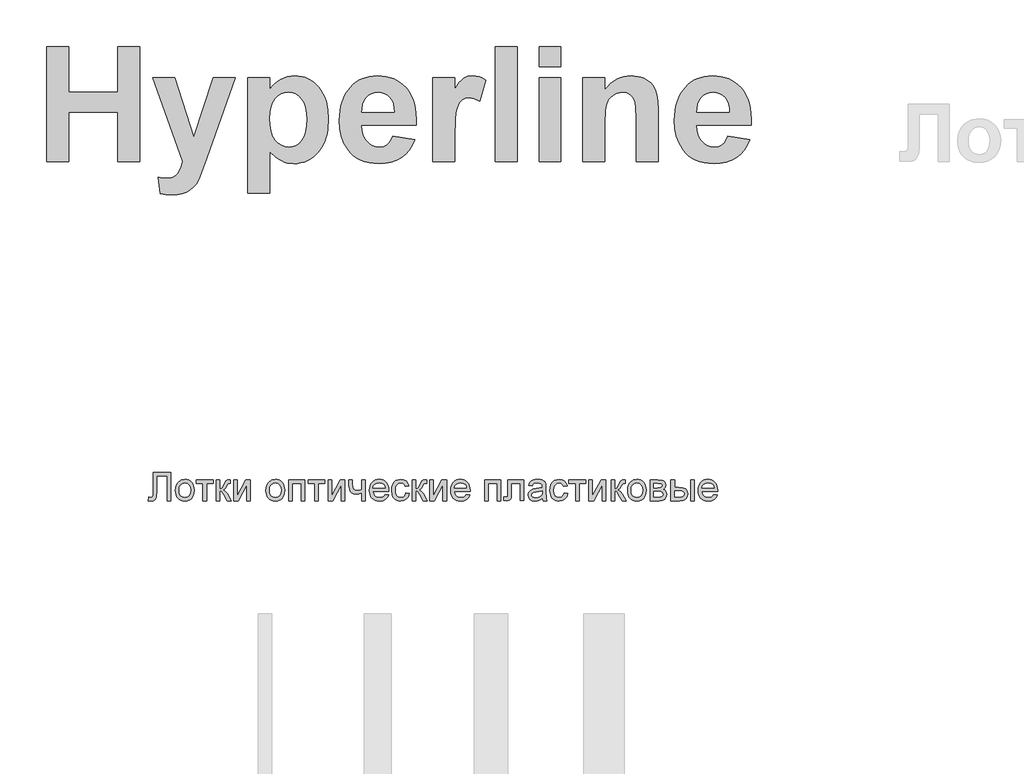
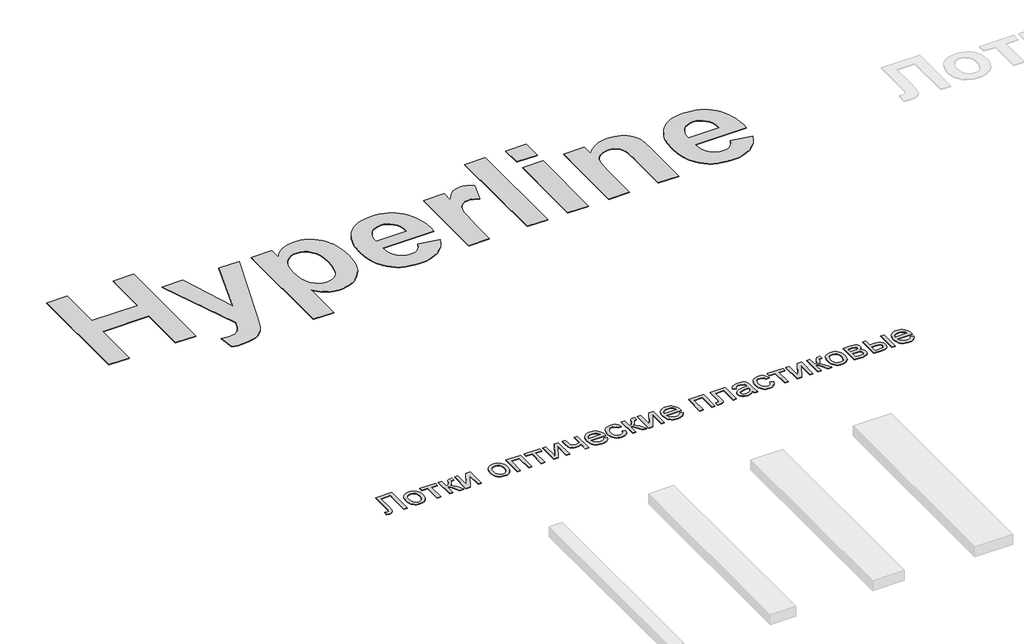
# One storey, part 8 of 11: 2 proxies.
"""IFC4 building model written with IfcOpenShell, lengths in millimetres."""

from ifc_helpers import new_model, si_unit, origin, origin_with_axes, place, context, project, spatial, polyline, outline, extrude, element, save

model = new_model("IFC4")

# Units and contexts
model_context = context("Model", 3, world=origin())
ifc_project = project(units=[si_unit("LENGTHUNIT", "METRE", prefix="MILLI")], contexts=[model_context])

# Site, building, storey
site = spatial("IfcSite", under=ifc_project)
building = spatial("IfcBuilding", under=site)
storey = spatial("IfcBuildingStorey", under=building, Name="Этаж 01", Elevation=0.0)

# Proxies
placement = place(None, origin())
element("IfcBuildingElementProxy", 1, Name="АБН_Логотип", ObjectType="АБН_Логотип", at=placement, inside=storey, context=model_context, shape_type="SweptSolid", body=[
    extrude(outline(polyline([(-20409.4017065, 14781.5295573), (-20409.4017065, 15801.7889572), (-20215.0665827, 15801.7889572), (-20215.0665827, 15396.924116), (-19777.8125541, 15396.924116), (-19777.8125541, 15801.7889572), (-19583.4774303, 15801.7889572), (-19583.4774303, 14781.5295573), (-19777.8125541, 14781.5295573), (-19777.8125541, 15218.7835858), (-20215.0665827, 15218.7835858), (-20215.0665827, 14781.5295573), (-20409.4017065, 14781.5295573)])), origin_with_axes(), (0.0, 0.0, 1.0), 5.0),
    extrude(outline(polyline([(-19470.1152747, 15526.4808652), (-19275.7801509, 15526.4808652), (-19105.7369176, 14999.1444094), (-18935.6936843, 15526.4808652), (-18741.3585605, 15526.4808652), (-18993.3869242, 14812.6535419), (-19040.1994214, 14680.0603064), (-19063.8903407, 14625.5933333), (-19086.3793174, 14585.6761903), (-19109.9437164, 14556.1337089), (-19136.8609023, 14532.7907204), (-19168.7123785, 14514.793213), (-19207.0796482, 14501.287175), (-19251.3933703, 14492.8419474), (-19301.0842035, 14490.0268716), (-19353.7166329, 14492.8103174), (-19405.3369001, 14501.1606547), (-19421.5314938, 14645.1407139), (-19380.8552293, 14638.1188393), (-19344.3541334, 14635.7782144), (-19314.7721145, 14638.3481573), (-19289.286189, 14646.0579858), (-19267.8963571, 14658.9077), (-19250.6026186, 14676.8972999), (-19223.6854327, 14723.6149069), (-19203.9166416, 14781.5295573), (-19470.1152747, 15526.4808652)])), origin_with_axes(), (0.0, 0.0, 1.0), 5.0),
    extrude(outline(polyline([(-18627.9964049, 15526.4808652), (-18433.6612811, 15526.4808652), (-18433.6612811, 15419.1916822), (-18415.0786175, 15445.4604518), (-18393.4910977, 15469.103926), (-18368.8987216, 15490.1221046), (-18341.3014892, 15508.5149878), (-18311.3952621, 15523.4601939), (-18279.8759016, 15534.1353411), (-18246.7434078, 15540.5404294), (-18211.9977806, 15542.6754588), (-18181.6467556, 15541.0880249), (-18152.4620893, 15536.3257231), (-18124.4437818, 15528.3885535), (-18097.5918328, 15517.2765161), (-18071.9062426, 15502.9896107), (-18047.387011, 15485.5278376), (-18001.8476239, 15441.0796877), (-17981.5944974, 15414.437288), (-17964.0417878, 15385.3079743), (-17949.1894951, 15353.6917468), (-17937.0376192, 15319.5886053), (-17920.8351181, 15243.9215806), (-17915.4342843, 15158.3069002), (-17921.0090834, 15070.2646122), (-17927.9775823, 15030.1458276), (-17937.7334807, 14992.6286159), (-17950.2767786, 14957.7129771), (-17965.6074761, 14925.3989112), (-17983.7255731, 14895.6864182), (-18004.6310697, 14868.5754981), (-18051.5938098, 14823.4077643), (-18076.8484404, 14805.6632974), (-18103.2852447, 14791.1450973), (-18130.9042227, 14779.8531638), (-18159.7053744, 14771.787497), (-18189.6886998, 14766.948097), (-18220.854199, 14765.3349636), (-18278.4841787, 14771.3446761), (-18305.1641391, 14778.8568167), (-18330.4207466, 14789.3738136), (-18355.2819783, 14803.544083), (-18380.7758113, 14822.0160414), (-18433.6612811, 14871.865025), (-18433.6612811, 14506.2214652), (-18627.9964049, 14506.2214652), (-18627.9964049, 15526.4808652)]), holes=[polyline([(-18433.6612811, 15166.910278), (-18430.6168873, 15105.769361), (-18421.4837058, 15053.1685617), (-18406.2617367, 15009.1078802), (-18384.9509799, 14973.5873163), (-18359.259459, 14946.2431245), (-18330.8951976, 14926.7115589), (-18299.8581956, 14914.9926196), (-18266.1484531, 14911.0863065), (-18234.0202138, 14914.6684114), (-18204.6912354, 14925.4147262), (-18178.1615177, 14943.325251), (-18154.4310609, 14968.3999856), (-18134.8915878, 15001.6510922), (-18120.9348213, 15044.0907328), (-18112.5607614, 15095.7189076), (-18109.7694081, 15156.5356165), (-18112.6398366, 15213.596255), (-18121.251122, 15262.8126373), (-18135.6032643, 15304.1847633), (-18155.6962636, 15337.7126329), (-18180.0435067, 15363.6176568), (-18207.1583805, 15382.1212452), (-18237.0408851, 15393.2233983), (-18269.6910204, 15396.924116), (-18303.4956532, 15393.2945659), (-18334.3112447, 15382.4059158), (-18362.137795, 15364.2581656), (-18386.9753041, 15338.8513153), (-18407.4004191, 15306.3277002), (-18421.9897869, 15266.8296557), (-18430.7434076, 15220.3571816), (-18433.6612811, 15166.910278)])]), origin_with_axes(), (0.0, 0.0, 1.0), 5.0),
    extrude(outline(polyline([(-17348.6235066, 15008.2538684), (-17154.2883828, 14975.8646811), (-17175.2907464, 14927.446958), (-17201.6069611, 14885.1812826), (-17233.2370268, 14849.0676551), (-17270.1809436, 14819.1060754), (-17312.264746, 14795.581214), (-17359.3144688, 14778.7777416), (-17411.3301119, 14768.6956581), (-17468.3116753, 14765.3349636), (-17513.8471086, 14767.3157965), (-17556.3223332, 14773.2582951), (-17595.7373488, 14783.1624594), (-17632.0921556, 14797.0282895), (-17665.3867535, 14814.8557853), (-17695.6211426, 14836.6449468), (-17722.7953228, 14862.3957741), (-17746.9092942, 14892.108267), (-17778.128169, 14946.1798644), (-17800.4273654, 15006.9254056), (-17813.8068832, 15074.3448907), (-17818.2667224, 15148.4383197), (-17812.3519001, 15235.8005612), (-17804.9583723, 15275.7335192), (-17794.6074333, 15313.1677019), (-17781.2990831, 15348.1031095), (-17765.0333218, 15380.5397419), (-17745.8101494, 15410.4775991), (-17723.6295658, 15437.9166812), (-17699.1874325, 15462.4695197), (-17673.179611, 15483.7486464), (-17645.6061012, 15501.7540613), (-17616.4669031, 15516.4857644), (-17585.7620168, 15527.9437557), (-17553.4914423, 15536.1280352), (-17519.6551795, 15541.0386029), (-17484.2532284, 15542.6754588), (-17444.7116925, 15540.9951116), (-17407.3130935, 15535.9540699), (-17372.0574315, 15527.5523337), (-17338.9447065, 15515.789903), (-17307.9749184, 15500.6667778), (-17279.1480672, 15482.1829581), (-17252.464153, 15460.338444), (-17227.9231758, 15435.1332354), (-17205.9837714, 15406.456627), (-17187.104576, 15374.1979138), (-17171.2855894, 15338.3570955), (-17158.5268116, 15298.9341724), (-17148.8282427, 15255.9291443), (-17142.1898826, 15209.3420112), (-17138.6117315, 15159.1727732), (-17138.0937891, 15105.4214303), (-17623.9315986, 15105.4214303), (-17620.3099561, 15061.9300899), (-17611.4693527, 15023.5628202), (-17597.4097885, 14990.3196211), (-17578.1312635, 14962.2004927), (-17554.8989802, 14939.8380362), (-17528.9781413, 14923.864853), (-17500.3687469, 14914.2809431), (-17469.0707969, 14911.0863065), (-17428.2680121, 14916.8429784), (-17410.4761001, 14924.0388184), (-17394.4238418, 14934.1129943), (-17380.1744971, 14947.3818069), (-17367.7913264, 14964.1615568), (-17348.6235066, 15008.2538684)]), holes=[polyline([(-17332.4289129, 15218.7835858), (-17335.8924051, 15259.8156886), (-17344.2585575, 15295.6130155), (-17357.5273701, 15326.1755665), (-17375.6988428, 15351.5033416), (-17397.428698, 15371.3749304), (-17421.3726577, 15385.5689224), (-17447.5307221, 15394.0853176), (-17475.9028911, 15396.924116), (-17506.0463437, 15393.9350748), (-17533.4696107, 15384.9679511), (-17558.172692, 15370.0227451), (-17580.1555877, 15349.0994566), (-17598.0582049, 15322.9255772), (-17610.7734913, 15292.481639), (-17618.3014469, 15257.7676418), (-17620.6420718, 15218.7835858), (-17332.4289129, 15218.7835858)])]), origin_with_axes(), (0.0, 0.0, 1.0), 5.0),
    extrude(outline(polyline([(-16798.0073225, 14781.5295573), (-16992.3424463, 14781.5295573), (-16992.3424463, 15526.4808652), (-16798.0073225, 15526.4808652), (-16798.0073225, 15422.7342496), (-16756.9514972, 15483.7486464), (-16738.084163, 15504.7905476), (-16720.3238811, 15519.5222507), (-16683.5064846, 15536.8871568), (-16641.8813181, 15542.6754588), (-16611.2792295, 15540.1134235), (-16581.214852, 15532.4273175), (-16551.6881857, 15519.6171409), (-16522.6992304, 15501.6828937), (-16579.3803082, 15316.7102693), (-16626.1928055, 15340.4328186), (-16648.2705913, 15346.3634559), (-16669.4627354, 15348.340335), (-16706.817843, 15342.8050735), (-16723.1468644, 15335.8859967), (-16737.9101976, 15326.199289), (-16751.1473801, 15312.9067539), (-16762.8979495, 15295.1701945), (-16781.9392491, 15246.3650031), (-16788.9690312, 15209.6108668), (-16793.9903041, 15157.0416975), (-16798.0073225, 15004.4582605), (-16798.0073225, 14781.5295573)])), origin_with_axes(), (0.0, 0.0, 1.0), 5.0),
    extrude(outline(polyline([(-16441.7262622, 14781.5295573), (-16441.7262622, 15801.7889572), (-16247.3911384, 15801.7889572), (-16247.3911384, 14781.5295573), (-16441.7262622, 14781.5295573)])), origin_with_axes(), (0.0, 0.0, 1.0), 5.0),
    extrude(outline(polyline([(-16053.0560146, 15623.6484271), (-16053.0560146, 15801.7889572), (-15858.7208908, 15801.7889572), (-15858.7208908, 15623.6484271), (-16053.0560146, 15623.6484271)])), origin_with_axes(), (0.0, 0.0, 1.0), 5.0),
    extrude(outline(polyline([(-16053.0560146, 14781.5295573), (-16053.0560146, 15526.4808652), (-15858.7208908, 15526.4808652), (-15858.7208908, 14781.5295573), (-16053.0560146, 14781.5295573)])), origin_with_axes(), (0.0, 0.0, 1.0), 5.0),
    extrude(outline(polyline([(-15000.4074273, 14781.5295573), (-15194.7425511, 14781.5295573), (-15194.7425511, 15164.3798728), (-15197.7790374, 15264.583921), (-15201.5746453, 15298.5546116), (-15206.8884964, 15321.7710798), (-15222.8933096, 15353.4644057), (-15246.6158589, 15377.186955), (-15276.9174619, 15391.9898257), (-15312.6594361, 15396.924116), (-15336.8168988, 15395.1607398), (-15359.6933439, 15389.8706113), (-15381.2887712, 15381.0537305), (-15401.6031809, 15368.7100974), (-15419.7272086, 15353.4485906), (-15434.7514898, 15335.8780891), (-15446.6760246, 15315.9985928), (-15455.5008129, 15293.8101017), (-15461.8663637, 15265.5249154), (-15466.4131856, 15227.3553336), (-15470.0506432, 15121.3629834), (-15470.0506432, 14781.5295573), (-15664.385767, 14781.5295573), (-15664.385767, 15526.4808652), (-15470.0506432, 15526.4808652), (-15470.0506432, 15419.1916822), (-15446.2134349, 15448.1331924), (-15420.881706, 15473.2158345), (-15394.0554565, 15494.4396086), (-15365.7346864, 15511.8045147), (-15335.9193957, 15525.3105527), (-15304.6095844, 15534.9577228), (-15271.8052525, 15540.7460248), (-15237.5064, 15542.6754588), (-15178.4214372, 15536.7922666), (-15150.87165, 15529.4382763), (-15124.6503255, 15519.1426899), (-15079.7356322, 15492.3836543), (-15061.9279051, 15476.5844365), (-15047.2199246, 15459.1720853), (-15024.9207283, 15420.2987345), (-15010.6555686, 15376.5543537), (-15002.9694626, 15320.3477269), (-15000.4074273, 15244.0876384), (-15000.4074273, 14781.5295573)])), origin_with_axes(), (0.0, 0.0, 1.0), 5.0),
    extrude(outline(polyline([(-14385.0128686, 15008.2538684), (-14190.6777448, 14975.8646811), (-14211.6801085, 14927.446958), (-14237.9963231, 14885.1812826), (-14269.6263889, 14849.0676551), (-14306.5703056, 14819.1060754), (-14348.6541081, 14795.581214), (-14395.7038308, 14778.7777416), (-14447.7194739, 14768.6956581), (-14504.7010373, 14765.3349636), (-14550.2364707, 14767.3157965), (-14592.7116952, 14773.2582951), (-14632.1267108, 14783.1624594), (-14668.4815176, 14797.0282895), (-14701.7761156, 14814.8557853), (-14732.0105046, 14836.6449468), (-14759.1846848, 14862.3957741), (-14783.2986562, 14892.108267), (-14814.5175311, 14946.1798644), (-14836.8167274, 15006.9254056), (-14850.1962452, 15074.3448907), (-14854.6560845, 15148.4383197), (-14848.7412622, 15235.8005612), (-14841.3477343, 15275.7335192), (-14830.9967953, 15313.1677019), (-14817.6884452, 15348.1031095), (-14801.4226839, 15380.5397419), (-14782.1995114, 15410.4775991), (-14760.0189278, 15437.9166812), (-14735.5767945, 15462.4695197), (-14709.568973, 15483.7486464), (-14681.9954632, 15501.7540613), (-14652.8562652, 15516.4857644), (-14622.1513789, 15527.9437557), (-14589.8808043, 15536.1280352), (-14556.0445415, 15541.0386029), (-14520.6425904, 15542.6754588), (-14481.1010545, 15540.9951116), (-14443.7024556, 15535.9540699), (-14408.4467936, 15527.5523337), (-14375.3340685, 15515.789903), (-14344.3642804, 15500.6667778), (-14315.5374293, 15482.1829581), (-14288.8535151, 15460.338444), (-14264.3125378, 15435.1332354), (-14242.3731335, 15406.456627), (-14223.493938, 15374.1979138), (-14207.6749514, 15338.3570955), (-14194.9161736, 15298.9341724), (-14185.2176047, 15255.9291443), (-14178.5792447, 15209.3420112), (-14175.0010935, 15159.1727732), (-14174.4831512, 15105.4214303), (-14660.3209607, 15105.4214303), (-14656.6993181, 15061.9300899), (-14647.8587148, 15023.5628202), (-14633.7991506, 14990.3196211), (-14614.5206255, 14962.2004927), (-14591.2883422, 14939.8380362), (-14565.3675034, 14923.864853), (-14536.7581089, 14914.2809431), (-14505.4601589, 14911.0863065), (-14464.6573741, 14916.8429784), (-14446.8654621, 14924.0388184), (-14430.8132038, 14934.1129943), (-14416.5638592, 14947.3818069), (-14404.1806884, 14964.1615568), (-14385.0128686, 15008.2538684)]), holes=[polyline([(-14368.818275, 15218.7835858), (-14372.2817672, 15259.8156886), (-14380.6479195, 15295.6130155), (-14393.9167321, 15326.1755665), (-14412.0882049, 15351.5033416), (-14433.81806, 15371.3749304), (-14457.7620198, 15385.5689224), (-14483.9200841, 15394.0853176), (-14512.2922531, 15396.924116), (-14542.4357057, 15393.9350748), (-14569.8589727, 15384.9679511), (-14594.562054, 15370.0227451), (-14616.5449497, 15349.0994566), (-14634.4475669, 15322.9255772), (-14647.1628533, 15292.481639), (-14654.690809, 15257.7676418), (-14657.0314338, 15218.7835858), (-14368.818275, 15218.7835858)])]), origin_with_axes(), (0.0, 0.0, 1.0), 5.0),
])
element("IfcBuildingElementProxy", 2, Name="АБН_Маленькая надпись", ObjectType="АБН_Маленькая надпись", at=placement, inside=storey, context=model_context, shape_type="SweptSolid", body=[
    extrude(outline(polyline([(-19464.9364862, 12032.6703326), (-19311.8975762, 12032.6703326), (-19311.8975762, 11781.5295573), (-19343.2901731, 11781.5295573), (-19343.2901731, 12001.2777357), (-19433.5438893, 12001.2777357), (-19433.5438893, 11873.1321741), (-19437.1920524, 11815.9571807), (-19442.8405739, 11799.8010297), (-19452.489812, 11787.6915807), (-19465.702907, 11780.1270072), (-19482.042999, 11777.6054827), (-19508.101307, 11781.5295573), (-19504.1772324, 11812.9221542), (-19489.1553842, 11808.9980796), (-19478.5404558, 11811.1057368), (-19470.9758823, 11817.4287086), (-19466.4463352, 11831.5691728), (-19464.9364862, 11857.1293073), (-19464.9364862, 12032.6703326)])), origin_with_axes(), (0.0, 0.0, 1.0), 5.0),
    extrude(outline(polyline([(-19268.7327555, 11873.7453107), (-19267.0351333, 11897.6308157), (-19261.942267, 11918.2130469), (-19253.4541563, 11935.4920044), (-19241.5708015, 11949.4676881), (-19216.4015416, 11964.7807761), (-19186.2658749, 11969.8851388), (-19168.9466803, 11968.3312206), (-19153.2867868, 11963.6694659), (-19139.2861945, 11955.8998748), (-19126.9449031, 11945.0224473), (-19116.8722175, 11931.4050653), (-19109.677442, 11915.4156109), (-19105.3605767, 11897.054084), (-19103.9216216, 11876.3204847), (-19106.4661387, 11844.605991), (-19114.0996901, 11820.4637351), (-19126.6000138, 11802.3838679), (-19143.7448476, 11788.8565403), (-19164.1086489, 11780.4182471), (-19186.2658749, 11777.6054827), (-19203.8379883, 11779.1536527), (-19219.6435017, 11783.7981629), (-19233.6824152, 11791.5390132), (-19245.9547286, 11802.3762037), (-19255.9201153, 11816.1257932), (-19263.0382487, 11832.6038409), (-19267.3091288, 11851.8103468), (-19268.7327555, 11873.7453107)]), holes=[polyline([(-19237.3401585, 11873.8066244), (-19233.7073238, 11845.3954045), (-19222.8088197, 11825.1542305), (-19206.4074141, 11813.0371173), (-19186.2658749, 11808.9980796), (-19166.2163061, 11813.0601099), (-19149.8455573, 11825.246201), (-19138.9470532, 11845.7556223), (-19135.3142185, 11874.7876431), (-19138.9700459, 11902.3711285), (-19149.9375278, 11922.3363909), (-19166.3312693, 11934.4535041), (-19186.2658749, 11938.4925419), (-19206.4074141, 11934.4688326), (-19222.8088197, 11922.3977046), (-19233.7073238, 11902.2025159), (-19237.3401585, 11873.8066244)])]), origin_with_axes(), (0.0, 0.0, 1.0), 5.0),
    extrude(outline(polyline([(-19084.3012485, 11965.9610642), (-18935.1864132, 11965.9610642), (-18935.1864132, 11934.5684673), (-18994.0475324, 11934.5684673), (-18994.0475324, 11781.5295573), (-19025.4401293, 11781.5295573), (-19025.4401293, 11934.5684673), (-19084.3012485, 11934.5684673), (-19084.3012485, 11965.9610642)])), origin_with_axes(), (0.0, 0.0, 1.0), 5.0),
    extrude(outline(polyline([(-18907.7178909, 11965.9610642), (-18876.3252939, 11965.9610642), (-18876.3252939, 11887.4795719), (-18863.556723, 11888.8897862), (-18855.2947065, 11893.1204291), (-18838.0655664, 11925.984554), (-18823.7488255, 11954.3421245), (-18811.1182103, 11963.5698312), (-18788.1562424, 11965.9610642), (-18782.1475032, 11965.9610642), (-18782.1475032, 11934.3845263), (-18790.6087891, 11934.5684673), (-18805.9372055, 11931.2575293), (-18816.7284107, 11910.5948239), (-18829.3896827, 11888.2459927), (-18847.139989, 11877.3015034), (-18827.3356749, 11865.0847554), (-18807.8992428, 11839.3483442), (-18774.2993539, 11781.5295573), (-18809.9839075, 11781.5295573), (-18842.909346, 11838.1220709), (-18859.4640358, 11862.0650574), (-18867.2048861, 11866.4106635), (-18876.3252939, 11867.8591988), (-18876.3252939, 11781.5295573), (-18907.7178909, 11781.5295573), (-18907.7178909, 11965.9610642)])), origin_with_axes(), (0.0, 0.0, 1.0), 5.0),
    extrude(outline(polyline([(-18754.6789809, 11965.9610642), (-18723.2863839, 11965.9610642), (-18723.2863839, 11825.3075147), (-18646.1537923, 11965.9610642), (-18605.5641455, 11965.9610642), (-18605.5641455, 11781.5295573), (-18636.9567424, 11781.5295573), (-18636.9567424, 11921.3247154), (-18713.5988247, 11781.5295573), (-18754.6789809, 11781.5295573), (-18754.6789809, 11965.9610642)])), origin_with_axes(), (0.0, 0.0, 1.0), 5.0),
    extrude(outline(polyline([(-18468.221534, 11873.7453107), (-18466.5239118, 11897.6308157), (-18461.4310455, 11918.2130469), (-18452.9429348, 11935.4920044), (-18441.05958, 11949.4676881), (-18415.8903201, 11964.7807761), (-18385.7546534, 11969.8851388), (-18368.4354588, 11968.3312206), (-18352.7755653, 11963.6694659), (-18338.7749729, 11955.8998748), (-18326.4336816, 11945.0224473), (-18316.360996, 11931.4050653), (-18309.1662205, 11915.4156109), (-18304.8493552, 11897.054084), (-18303.4104001, 11876.3204847), (-18305.9549172, 11844.605991), (-18313.5884686, 11820.4637351), (-18326.0887923, 11802.3838679), (-18343.2336261, 11788.8565403), (-18363.5974274, 11780.4182471), (-18385.7546534, 11777.6054827), (-18403.3267668, 11779.1536527), (-18419.1322802, 11783.7981629), (-18433.1711936, 11791.5390132), (-18445.4435071, 11802.3762037), (-18455.4088938, 11816.1257932), (-18462.5270272, 11832.6038409), (-18466.7979073, 11851.8103468), (-18468.221534, 11873.7453107)]), holes=[polyline([(-18436.828937, 11873.8066244), (-18433.1961023, 11845.3954045), (-18422.2975982, 11825.1542305), (-18405.8961926, 11813.0371173), (-18385.7546534, 11808.9980796), (-18365.7050846, 11813.0601099), (-18349.3343358, 11825.246201), (-18338.4358317, 11845.7556223), (-18334.802997, 11874.7876431), (-18338.4588244, 11902.3711285), (-18349.4263063, 11922.3363909), (-18365.8200478, 11934.4535041), (-18385.7546534, 11938.4925419), (-18405.8961926, 11934.4688326), (-18422.2975982, 11922.3977046), (-18433.1961023, 11902.2025159), (-18436.828937, 11873.8066244)])]), origin_with_axes(), (0.0, 0.0, 1.0), 5.0),
    extrude(outline(polyline([(-18268.0937286, 11965.9610642), (-18126.8270424, 11965.9610642), (-18126.8270424, 11781.5295573), (-18158.2196393, 11781.5295573), (-18158.2196393, 11934.5684673), (-18236.7011317, 11934.5684673), (-18236.7011317, 11781.5295573), (-18268.0937286, 11781.5295573), (-18268.0937286, 11965.9610642)])), origin_with_axes(), (0.0, 0.0, 1.0), 5.0),
    extrude(outline(polyline([(-18095.4344455, 11965.9610642), (-17946.3196101, 11965.9610642), (-17946.3196101, 11934.5684673), (-18005.1807294, 11934.5684673), (-18005.1807294, 11781.5295573), (-18036.5733263, 11781.5295573), (-18036.5733263, 11934.5684673), (-18095.4344455, 11934.5684673), (-18095.4344455, 11965.9610642)])), origin_with_axes(), (0.0, 0.0, 1.0), 5.0),
    extrude(outline(polyline([(-17918.8510878, 11965.9610642), (-17887.4584909, 11965.9610642), (-17887.4584909, 11825.3075147), (-17810.3258992, 11965.9610642), (-17769.7362524, 11965.9610642), (-17769.7362524, 11781.5295573), (-17801.1288494, 11781.5295573), (-17801.1288494, 11921.3247154), (-17877.7709317, 11781.5295573), (-17918.8510878, 11781.5295573), (-17918.8510878, 11965.9610642)])), origin_with_axes(), (0.0, 0.0, 1.0), 5.0),
    extrude(outline(polyline([(-17734.4195809, 11965.9610642), (-17703.026984, 11965.9610642), (-17703.026984, 11930.583079), (-17700.4824668, 11897.4123858), (-17696.1521892, 11887.7708118), (-17688.2503905, 11879.4474817), (-17677.336558, 11873.6993255), (-17663.9701788, 11871.7832734), (-17644.763673, 11874.159178), (-17620.6214171, 11881.2868916), (-17620.6214171, 11965.9610642), (-17589.2288201, 11965.9610642), (-17589.2288201, 11781.5295573), (-17620.6214171, 11781.5295573), (-17620.6214171, 11851.1818817), (-17647.415489, 11843.0884778), (-17672.3701511, 11840.3906765), (-17691.3543948, 11843.2034409), (-17707.9627341, 11851.6417342), (-17720.9075818, 11864.1573862), (-17728.901351, 11879.202227), (-17734.4195809, 11915.0707215), (-17734.4195809, 11965.9610642)])), origin_with_axes(), (0.0, 0.0, 1.0), 5.0),
    extrude(outline(polyline([(-17413.0133445, 11836.4666019), (-17382.2338842, 11832.5425273), (-17393.3239935, 11809.3506332), (-17411.0206503, 11792.0141941), (-17434.9253158, 11781.2076605), (-17464.6394511, 11777.6054827), (-17484.1180363, 11779.1594009), (-17501.4736359, 11783.8211555), (-17516.7062497, 11791.5907466), (-17529.8158779, 11802.4681742), (-17540.3579963, 11816.1507019), (-17547.8880809, 11832.3355937), (-17552.4061317, 11851.0228494), (-17553.9121486, 11872.2124691), (-17552.3908033, 11894.1206083), (-17547.8267673, 11913.430581), (-17540.2200406, 11930.142387), (-17529.5706233, 11944.2560265), (-17516.495484, 11955.4687631), (-17501.6115916, 11963.4778607), (-17484.9189461, 11968.2833193), (-17466.4175474, 11969.8851388), (-17448.5120409, 11968.2871514), (-17432.319485, 11963.4931891), (-17417.8398796, 11955.5032521), (-17405.0732247, 11944.3173401), (-17394.6518176, 11930.2343575), (-17387.2079553, 11913.5532083), (-17382.741638, 11894.2738925), (-17381.2528655, 11872.3964101), (-17381.4368065, 11863.9351242), (-17522.5195517, 11863.9351242), (-17517.085628, 11840.4366618), (-17504.4626771, 11823.1615364), (-17486.2448541, 11812.5389438), (-17464.0263144, 11808.9980796), (-17447.3183405, 11810.6382201), (-17433.2468542, 11815.5586418), (-17421.8118555, 11824.065913), (-17413.0133445, 11836.4666019)]), holes=[polyline([(-17522.5195517, 11895.3277211), (-17412.6454625, 11895.3277211), (-17416.8914338, 11911.9130677), (-17425.214764, 11923.7772621), (-17443.5168932, 11934.8137219), (-17466.5401748, 11938.4925419), (-17487.7010537, 11935.5571501), (-17505.1984411, 11926.7509749), (-17517.3615395, 11913.0243779), (-17522.5195517, 11895.3277211)])]), origin_with_axes(), (0.0, 0.0, 1.0), 5.0),
    extrude(outline(polyline([(-17232.1380302, 11848.2388257), (-17200.7454332, 11844.3147511), (-17209.497959, 11816.3940405), (-17225.9453499, 11795.2944753), (-17248.5394358, 11782.0277308), (-17275.7320466, 11777.6054827), (-17293.3386489, 11779.1479046), (-17309.1250019, 11783.7751703), (-17323.0911053, 11791.4872798), (-17335.2369593, 11802.2842332), (-17345.0682224, 11815.9629288), (-17352.0905532, 11832.3202652), (-17357.7084178, 11873.0708604), (-17355.3095207, 11901.0068994), (-17348.1128291, 11925.2181332), (-17336.0033801, 11944.7695284), (-17318.8662105, 11958.7260516), (-17298.3644535, 11967.095367), (-17276.1612422, 11969.8851388), (-17249.6354176, 11966.0530347), (-17228.4285534, 11954.5567223), (-17213.2151, 11936.0093384), (-17204.6695078, 11911.0240196), (-17236.0621048, 11907.099945), (-17241.7566115, 11920.7958851), (-17250.6241004, 11930.6137358), (-17262.1740622, 11936.5228404), (-17275.9159876, 11938.4925419), (-17296.2031468, 11934.6144525), (-17312.3056483, 11922.9801844), (-17322.8132778, 11902.9612725), (-17326.3158209, 11873.9292517), (-17322.8899198, 11844.5063563), (-17312.6122166, 11824.4184665), (-17296.800955, 11812.8531763), (-17276.7743789, 11808.9980796), (-17260.5185932, 11811.404641), (-17247.1905351, 11818.6243251), (-17237.4953117, 11830.841073), (-17232.1380302, 11848.2388257)])), origin_with_axes(), (0.0, 0.0, 1.0), 5.0),
    extrude(outline(polyline([(-17173.2769109, 11965.9610642), (-17141.884314, 11965.9610642), (-17141.884314, 11887.4795719), (-17129.1157431, 11888.8897862), (-17120.8537266, 11893.1204291), (-17103.6245865, 11925.984554), (-17089.3078455, 11954.3421245), (-17076.6772304, 11963.5698312), (-17053.7152625, 11965.9610642), (-17047.7065232, 11965.9610642), (-17047.7065232, 11934.3845263), (-17056.1678091, 11934.5684673), (-17071.4962256, 11931.2575293), (-17082.2874308, 11910.5948239), (-17094.9487028, 11888.2459927), (-17112.6990091, 11877.3015034), (-17092.894695, 11865.0847554), (-17073.4582629, 11839.3483442), (-17039.858374, 11781.5295573), (-17075.5429275, 11781.5295573), (-17108.4683661, 11838.1220709), (-17125.0230559, 11862.0650574), (-17132.7639062, 11866.4106635), (-17141.884314, 11867.8591988), (-17141.884314, 11781.5295573), (-17173.2769109, 11781.5295573), (-17173.2769109, 11965.9610642)])), origin_with_axes(), (0.0, 0.0, 1.0), 5.0),
    extrude(outline(polyline([(-17020.2380009, 11965.9610642), (-16988.845404, 11965.9610642), (-16988.845404, 11825.3075147), (-16911.7128124, 11965.9610642), (-16871.1231656, 11965.9610642), (-16871.1231656, 11781.5295573), (-16902.5157625, 11781.5295573), (-16902.5157625, 11921.3247154), (-16979.1578448, 11781.5295573), (-17020.2380009, 11781.5295573), (-17020.2380009, 11965.9610642)])), origin_with_axes(), (0.0, 0.0, 1.0), 5.0),
    extrude(outline(polyline([(-16694.9076899, 11836.4666019), (-16664.1282296, 11832.5425273), (-16675.2183389, 11809.3506332), (-16692.9149957, 11792.0141941), (-16716.8196612, 11781.2076605), (-16746.5337965, 11777.6054827), (-16766.0123817, 11779.1594009), (-16783.3679813, 11783.8211555), (-16798.6005952, 11791.5907466), (-16811.7102233, 11802.4681742), (-16822.2523418, 11816.1507019), (-16829.7824263, 11832.3355937), (-16834.3004771, 11851.0228494), (-16835.806494, 11872.2124691), (-16834.2851487, 11894.1206083), (-16829.7211127, 11913.430581), (-16822.114386, 11930.142387), (-16811.4649687, 11944.2560265), (-16798.3898294, 11955.4687631), (-16783.505937, 11963.4778607), (-16766.8132915, 11968.2833193), (-16748.3118928, 11969.8851388), (-16730.4063863, 11968.2871514), (-16714.2138304, 11963.4931891), (-16699.734225, 11955.5032521), (-16686.9675701, 11944.3173401), (-16676.546163, 11930.2343575), (-16669.1023007, 11913.5532083), (-16664.6359834, 11894.2738925), (-16663.1472109, 11872.3964101), (-16663.3311519, 11863.9351242), (-16804.4138971, 11863.9351242), (-16798.9799735, 11840.4366618), (-16786.3570225, 11823.1615364), (-16768.1391995, 11812.5389438), (-16745.9206599, 11808.9980796), (-16729.2126859, 11810.6382201), (-16715.1411996, 11815.5586418), (-16703.7062009, 11824.065913), (-16694.9076899, 11836.4666019)]), holes=[polyline([(-16804.4138971, 11895.3277211), (-16694.5398079, 11895.3277211), (-16698.7857792, 11911.9130677), (-16707.1091094, 11923.7772621), (-16725.4112386, 11934.8137219), (-16748.4345202, 11938.4925419), (-16769.5953991, 11935.5571501), (-16787.0927865, 11926.7509749), (-16799.255885, 11913.0243779), (-16804.4138971, 11895.3277211)])]), origin_with_axes(), (0.0, 0.0, 1.0), 5.0),
    extrude(outline(polyline([(-16533.6527486, 11965.9610642), (-16392.3860625, 11965.9610642), (-16392.3860625, 11781.5295573), (-16423.7786594, 11781.5295573), (-16423.7786594, 11934.5684673), (-16502.2601517, 11934.5684673), (-16502.2601517, 11781.5295573), (-16533.6527486, 11781.5295573), (-16533.6527486, 11965.9610642)])), origin_with_axes(), (0.0, 0.0, 1.0), 5.0),
    extrude(outline(polyline([(-16329.6008687, 11965.9610642), (-16188.3341825, 11965.9610642), (-16188.3341825, 11781.7134983), (-16219.7267794, 11781.7134983), (-16219.7267794, 11934.5684673), (-16298.2082717, 11934.5684673), (-16298.2082717, 11846.5833568), (-16300.3235932, 11805.99371), (-16304.2859889, 11796.8043243), (-16311.9425329, 11788.8565403), (-16323.5614726, 11783.361303), (-16339.4110552, 11781.5295573), (-16364.9175402, 11783.1237126), (-16364.9175402, 11812.9221542), (-16350.8767107, 11812.9221542), (-16336.6825971, 11814.8535347), (-16331.011083, 11820.9849013), (-16329.6008687, 11848.3614531), (-16329.6008687, 11965.9610642)])), origin_with_axes(), (0.0, 0.0, 1.0), 5.0),
    extrude(outline(polyline([(-16023.5230487, 11805.074005), (-16038.5219042, 11792.2134636), (-16053.9652838, 11783.7981629), (-16070.205741, 11779.1536527), (-16087.5958295, 11777.6054827), (-16113.8304143, 11781.3302879), (-16133.1825401, 11792.5047035), (-16145.1157123, 11809.4732605), (-16149.0934364, 11830.58049), (-16147.5912515, 11843.5943155), (-16143.0846971, 11855.4125246), (-16127.2964281, 11873.4387424), (-16105.3154789, 11883.7394383), (-16078.153525, 11888.4605905), (-16023.7069897, 11899.2517957), (-16023.5230487, 11906.2415536), (-16025.6843554, 11920.2517263), (-16032.1682756, 11929.4181193), (-16046.6689575, 11936.2239362), (-16066.8718104, 11938.4925419), (-16085.5724785, 11936.9826929), (-16098.6322894, 11932.4531458), (-16107.5380993, 11924.0761662), (-16113.7767648, 11911.0240196), (-16145.1693617, 11914.9480942), (-16139.7201097, 11932.1159206), (-16131.5883848, 11945.6049271), (-16120.0154303, 11955.9209514), (-16104.2424898, 11963.5698312), (-16084.9516777, 11968.3063119), (-16062.8251085, 11969.8851388), (-16041.6029159, 11968.4902529), (-16024.7799788, 11964.3055952), (-16012.0957142, 11958.0132803), (-16003.2895389, 11950.2954226), (-15993.6632934, 11928.9889237), (-15992.1304517, 11901.5204014), (-15992.1304517, 11862.4635962), (-15990.5362964, 11807.9250904), (-15984.2823025, 11781.5295573), (-16015.6748994, 11781.5295573), (-16023.5230487, 11805.074005)]), holes=[polyline([(-16023.5230487, 11867.8591988), (-16074.1681367, 11858.2329533), (-16101.1768065, 11853.143919), (-16113.4088828, 11844.8665741), (-16117.7008394, 11832.7877819), (-16115.3632559, 11823.4527763), (-16108.3505054, 11815.8038965), (-16096.815872, 11810.6995338), (-16080.9126399, 11808.9980796), (-16064.0513818, 11810.8758106), (-16049.152161, 11816.5090036), (-16037.0733688, 11824.8093412), (-16028.6733966, 11834.6885056), (-16024.9485914, 11844.8665741), (-16023.7069897, 11858.9687173), (-16023.5230487, 11867.8591988)])]), origin_with_axes(), (0.0, 0.0, 1.0), 5.0),
    extrude(outline(polyline([(-15831.2433925, 11848.2388257), (-15799.8507956, 11844.3147511), (-15808.6033214, 11816.3940405), (-15825.0507123, 11795.2944753), (-15847.6447981, 11782.0277308), (-15874.837409, 11777.6054827), (-15892.4440113, 11779.1479046), (-15908.2303642, 11783.7751703), (-15922.1964677, 11791.4872798), (-15934.3423217, 11802.2842332), (-15944.1735848, 11815.9629288), (-15951.1959156, 11832.3202652), (-15956.8137802, 11873.0708604), (-15954.414883, 11901.0068994), (-15947.2181915, 11925.2181332), (-15935.1087425, 11944.7695284), (-15917.9715729, 11958.7260516), (-15897.4698159, 11967.095367), (-15875.2666046, 11969.8851388), (-15848.7407799, 11966.0530347), (-15827.5339157, 11954.5567223), (-15812.3204624, 11936.0093384), (-15803.7748702, 11911.0240196), (-15835.1674671, 11907.099945), (-15840.8619739, 11920.7958851), (-15849.7294628, 11930.6137358), (-15861.2794246, 11936.5228404), (-15875.0213499, 11938.4925419), (-15895.3085091, 11934.6144525), (-15911.4110106, 11922.9801844), (-15921.9186401, 11902.9612725), (-15925.4211833, 11873.9292517), (-15921.9952822, 11844.5063563), (-15911.717579, 11824.4184665), (-15895.9063174, 11812.8531763), (-15875.8797413, 11808.9980796), (-15859.6239556, 11811.404641), (-15846.2958975, 11818.6243251), (-15836.6006741, 11830.841073), (-15831.2433925, 11848.2388257)])), origin_with_axes(), (0.0, 0.0, 1.0), 5.0),
    extrude(outline(polyline([(-15788.0785718, 11965.9610642), (-15638.9637364, 11965.9610642), (-15638.9637364, 11934.5684673), (-15697.8248556, 11934.5684673), (-15697.8248556, 11781.5295573), (-15729.2174525, 11781.5295573), (-15729.2174525, 11934.5684673), (-15788.0785718, 11934.5684673), (-15788.0785718, 11965.9610642)])), origin_with_axes(), (0.0, 0.0, 1.0), 5.0),
    extrude(outline(polyline([(-15611.4952141, 11965.9610642), (-15580.1026171, 11965.9610642), (-15580.1026171, 11825.3075147), (-15502.9700255, 11965.9610642), (-15462.3803787, 11965.9610642), (-15462.3803787, 11781.5295573), (-15493.7729756, 11781.5295573), (-15493.7729756, 11921.3247154), (-15570.4150579, 11781.5295573), (-15611.4952141, 11781.5295573), (-15611.4952141, 11965.9610642)])), origin_with_axes(), (0.0, 0.0, 1.0), 5.0),
    extrude(outline(polyline([(-15415.2914833, 11965.9610642), (-15383.8988864, 11965.9610642), (-15383.8988864, 11887.4795719), (-15371.1303155, 11888.8897862), (-15362.868299, 11893.1204291), (-15345.6391589, 11925.984554), (-15331.3224179, 11954.3421245), (-15318.6918027, 11963.5698312), (-15295.7298349, 11965.9610642), (-15289.7210956, 11965.9610642), (-15289.7210956, 11934.3845263), (-15298.1823815, 11934.5684673), (-15313.510798, 11931.2575293), (-15324.3020032, 11910.5948239), (-15336.9632752, 11888.2459927), (-15354.7135814, 11877.3015034), (-15334.9092674, 11865.0847554), (-15315.4728353, 11839.3483442), (-15281.8729464, 11781.5295573), (-15317.5574999, 11781.5295573), (-15350.4829385, 11838.1220709), (-15367.0376283, 11862.0650574), (-15374.7784786, 11866.4106635), (-15383.8988864, 11867.8591988), (-15383.8988864, 11781.5295573), (-15415.2914833, 11781.5295573), (-15415.2914833, 11965.9610642)])), origin_with_axes(), (0.0, 0.0, 1.0), 5.0),
    extrude(outline(polyline([(-15270.1007225, 11873.7453107), (-15268.4031004, 11897.6308157), (-15263.3102341, 11918.2130469), (-15254.8221234, 11935.4920044), (-15242.9387686, 11949.4676881), (-15217.7695087, 11964.7807761), (-15187.633842, 11969.8851388), (-15170.3146474, 11968.3312206), (-15154.6547539, 11963.6694659), (-15140.6541615, 11955.8998748), (-15128.3128702, 11945.0224473), (-15118.2401846, 11931.4050653), (-15111.0454091, 11915.4156109), (-15106.7285438, 11897.054084), (-15105.2895887, 11876.3204847), (-15107.8341058, 11844.605991), (-15115.4676572, 11820.4637351), (-15127.9679809, 11802.3838679), (-15145.1128147, 11788.8565403), (-15165.476616, 11780.4182471), (-15187.633842, 11777.6054827), (-15205.2059554, 11779.1536527), (-15221.0114688, 11783.7981629), (-15235.0503822, 11791.5390132), (-15247.3226957, 11802.3762037), (-15257.2880824, 11816.1257932), (-15264.4062158, 11832.6038409), (-15268.6770959, 11851.8103468), (-15270.1007225, 11873.7453107)]), holes=[polyline([(-15238.7081256, 11873.8066244), (-15235.0752909, 11845.3954045), (-15224.1767868, 11825.1542305), (-15207.7753812, 11813.0371173), (-15187.633842, 11808.9980796), (-15167.5842732, 11813.0601099), (-15151.2135244, 11825.246201), (-15140.3150203, 11845.7556223), (-15136.6821856, 11874.7876431), (-15140.338013, 11902.3711285), (-15151.3054949, 11922.3363909), (-15167.6992363, 11934.4535041), (-15187.633842, 11938.4925419), (-15207.7753812, 11934.4688326), (-15224.1767868, 11922.3977046), (-15235.0752909, 11902.2025159), (-15238.7081256, 11873.8066244)])]), origin_with_axes(), (0.0, 0.0, 1.0), 5.0),
    extrude(outline(polyline([(-15069.9729172, 11965.9610642), (-15000.8111021, 11965.9610642), (-14962.8885997, 11961.7610781), (-14951.3463021, 11955.8136525), (-14941.551444, 11946.3713479), (-14934.8605902, 11934.0702937), (-14932.6303056, 11919.5466191), (-14938.0259082, 11897.7496109), (-14954.2740297, 11882.2065966), (-14942.65509, 11875.6843554), (-14933.1821286, 11865.1920543), (-14926.8821495, 11851.5574279), (-14924.7821564, 11835.6082106), (-14930.1011169, 11811.6805525), (-14942.7470605, 11794.8346228), (-14962.7659724, 11784.8558236), (-14990.2038379, 11781.5295573), (-15069.9729172, 11781.5295573), (-15069.9729172, 11965.9610642)]), holes=[polyline([(-15038.5803202, 11895.3277211), (-15007.5556053, 11895.3277211), (-14981.9571498, 11896.9218764), (-14969.5104757, 11903.2984977), (-14964.0229026, 11914.8254669), (-14966.4294639, 11924.1911293), (-14973.6491481, 11930.215197), (-15006.5745867, 11934.5684673), (-15038.5803202, 11934.5684673), (-15038.5803202, 11895.3277211)]), polyline([(-15038.5803202, 11812.9221542), (-15000.0753381, 11812.9221542), (-14979.0907359, 11814.3400327), (-14965.9236262, 11818.5936683), (-14958.8572262, 11826.3268544), (-14956.1747533, 11838.1833845), (-14961.5396991, 11853.2972032), (-14975.5192149, 11862.0957142), (-15003.1410214, 11863.9351242), (-15038.5803202, 11863.9351242), (-15038.5803202, 11812.9221542)])]), origin_with_axes(), (0.0, 0.0, 1.0), 5.0),
    extrude(outline(polyline([(-14712.8821272, 11965.9610642), (-14681.4895303, 11965.9610642), (-14681.4895303, 11781.5295573), (-14712.8821272, 11781.5295573), (-14712.8821272, 11965.9610642)])), origin_with_axes(), (0.0, 0.0, 1.0), 5.0),
    extrude(outline(polyline([(-14885.5414103, 11965.9610642), (-14854.1488133, 11965.9610642), (-14854.1488133, 11899.2517957), (-14815.3372628, 11899.2517957), (-14781.7910234, 11895.3200569), (-14756.9359961, 11883.5248404), (-14741.5539302, 11864.8165081), (-14736.4265749, 11840.1454218), (-14740.7261957, 11817.6816275), (-14753.6250582, 11798.7280405), (-14775.9662252, 11785.8291781), (-14808.5927596, 11781.5295573), (-14885.5414103, 11781.5295573), (-14885.5414103, 11965.9610642)]), holes=[polyline([(-14854.1488133, 11812.9221542), (-14821.8978251, 11812.9221542), (-14796.8971778, 11814.569959), (-14780.265846, 11819.5133733), (-14770.9308403, 11827.9516665), (-14767.8191718, 11840.0841082), (-14770.1260985, 11850.3388188), (-14777.0468785, 11859.3979129), (-14791.8464646, 11865.7438773), (-14817.7898095, 11867.8591988), (-14854.1488133, 11867.8591988), (-14854.1488133, 11812.9221542)])]), origin_with_axes(), (0.0, 0.0, 1.0), 5.0),
    extrude(outline(polyline([(-14505.2740546, 11836.4666019), (-14474.4945943, 11832.5425273), (-14485.5847036, 11809.3506332), (-14503.2813604, 11792.0141941), (-14527.1860259, 11781.2076605), (-14556.9001612, 11777.6054827), (-14576.3787465, 11779.1594009), (-14593.734346, 11783.8211555), (-14608.9669599, 11791.5907466), (-14622.076588, 11802.4681742), (-14632.6187065, 11816.1507019), (-14640.1487911, 11832.3355937), (-14644.6668418, 11851.0228494), (-14646.1728587, 11872.2124691), (-14644.6515134, 11894.1206083), (-14640.0874774, 11913.430581), (-14632.4807507, 11930.142387), (-14621.8313334, 11944.2560265), (-14608.7561941, 11955.4687631), (-14593.8723017, 11963.4778607), (-14577.1796562, 11968.2833193), (-14558.6782575, 11969.8851388), (-14540.7727511, 11968.2871514), (-14524.5801951, 11963.4931891), (-14510.1005897, 11955.5032521), (-14497.3339348, 11944.3173401), (-14486.9125277, 11930.2343575), (-14479.4686655, 11913.5532083), (-14475.0023481, 11894.2738925), (-14473.5135757, 11872.3964101), (-14473.6975167, 11863.9351242), (-14614.7802618, 11863.9351242), (-14609.3463382, 11840.4366618), (-14596.7233872, 11823.1615364), (-14578.5055642, 11812.5389438), (-14556.2870246, 11808.9980796), (-14539.5790506, 11810.6382201), (-14525.5075643, 11815.5586418), (-14514.0725656, 11824.065913), (-14505.2740546, 11836.4666019)]), holes=[polyline([(-14614.7802618, 11895.3277211), (-14504.9061726, 11895.3277211), (-14509.1521439, 11911.9130677), (-14517.4754741, 11923.7772621), (-14535.7776033, 11934.8137219), (-14558.8008849, 11938.4925419), (-14579.9617638, 11935.5571501), (-14597.4591512, 11926.7509749), (-14609.6222497, 11913.0243779), (-14614.7802618, 11895.3277211)])]), origin_with_axes(), (0.0, 0.0, 1.0), 5.0),
])

save(model, "model.ifc")
